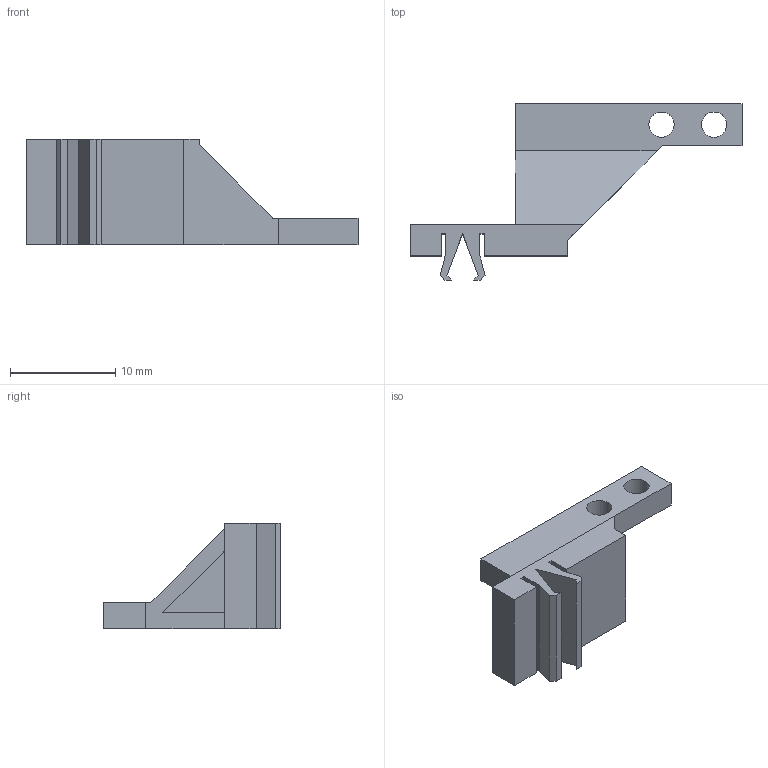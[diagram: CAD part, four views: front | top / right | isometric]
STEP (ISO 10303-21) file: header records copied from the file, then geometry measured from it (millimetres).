
FILE_DESCRIPTION(/* description */ (''),/* implementation_level */ '2;1');
FILE_NAME(/* name */ 'C:/Users/priba/Downloads/mrm-barr2HolderL.step',/* time_stamp */ '2022-04-05T08:44:25+02:00',/* author */ (''),/* organization */ (''),/* preprocessor_version */ 'ST-DEVELOPER v18.1',/* originating_system */ 'Autodesk Translation Framework v10.13.0.1454',/* authorisation */ '');
FILE_SCHEMA (('AUTOMOTIVE_DESIGN { 1 0 10303 214 3 1 1 }'));
Length unit declared in the file: millimetre
Products named in the file (1): mrm-barr2HolderL
Bounding box: 31.57 x 16.81 x 10 mm (x, y, z)
Volume: 967.6 mm3; surface area: 1304.8 mm2
Topology: 1 solids, 1 shells, 42 faces, 117 edges, 77 vertices
Faces by surface type: plane 40, cylinder 2
Full cylindrical faces by diameter (mm): 2.4 x2
Entity records: 1362 total; most frequent: CARTESIAN_POINT 237, ORIENTED_EDGE 234, DIRECTION 207, EDGE_CURVE 117, LINE 113, VECTOR 113, VERTEX_POINT 77, AXIS2_PLACEMENT_3D 47
